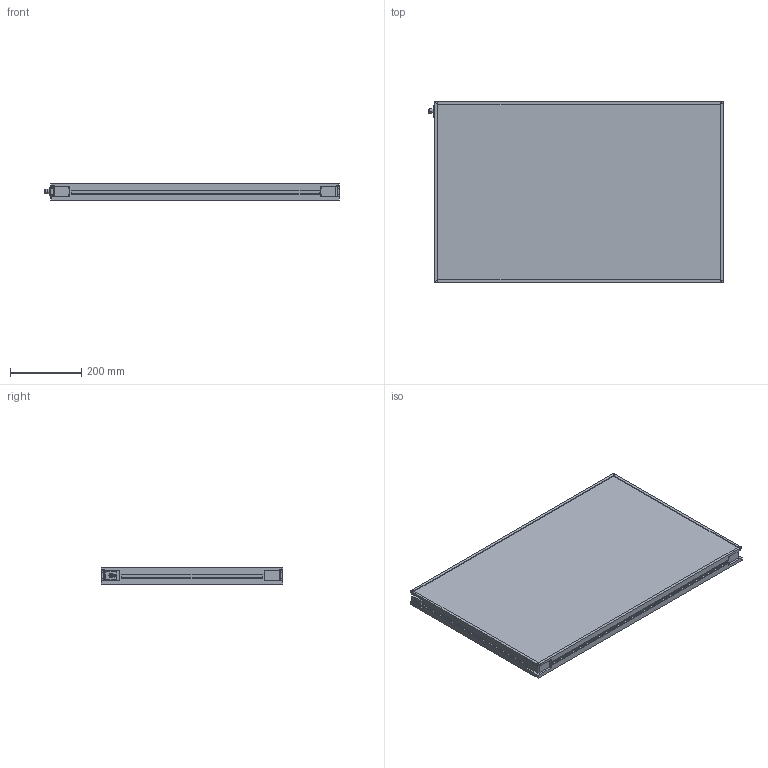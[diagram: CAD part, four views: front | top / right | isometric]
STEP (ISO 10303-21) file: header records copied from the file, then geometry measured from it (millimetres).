
FILE_DESCRIPTION (( 'STEP AP214' ), '1' );
FILE_NAME ('MBACK-xxxx-xxx-M1_CLIENT500x800.STEP', '2022-03-31T16:20:44', ( '' ), ( '' ), 'SwSTEP 2.0', 'SolidWorks 2020', '' );
FILE_SCHEMA (( 'AUTOMOTIVE_DESIGN' ));
Length unit declared in the file: millimetre
Products named in the file (1): MBACK-xxxx-xxx-M1_CLIENT500x800
Bounding box: 825.9 x 508 x 45.5 mm (x, y, z)
Volume: 17058207.6 mm3; surface area: 995601.5 mm2
Topology: 1 solids, 1 shells, 442 faces, 1144 edges, 760 vertices
Faces by surface type: plane 249, cylinder 105, bspline 80, cone 8
Entity records: 17236 total; most frequent: CARTESIAN_POINT 6699, ORIENTED_EDGE 2288, DIRECTION 1936, EDGE_CURVE 1144, VERTEX_POINT 760, LINE 758, VECTOR 758, AXIS2_PLACEMENT_3D 589
